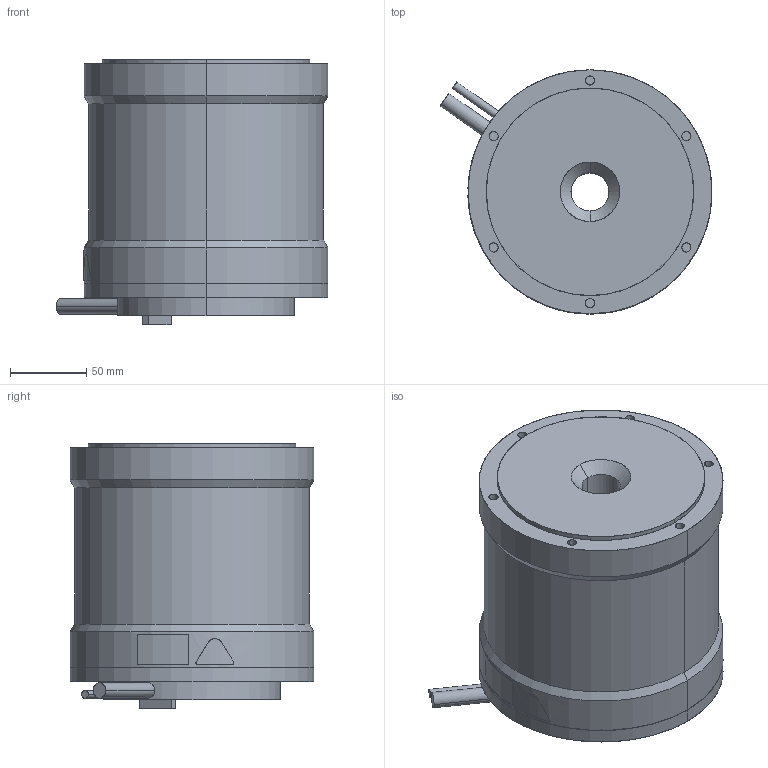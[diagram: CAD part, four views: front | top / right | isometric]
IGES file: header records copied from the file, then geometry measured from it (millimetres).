
Start section: SolidWorks IGES file using analytic representation for surfaces
Bounding box: 178.36 x 160 x 174 mm (x, y, z)
Surface area: 142336.5 mm2 (no closed solid volume)
Topology: 0 solids, 0 shells, 188 faces, 4124 edges, 4124 vertices
Faces by surface type: revolution 112, bspline 76
